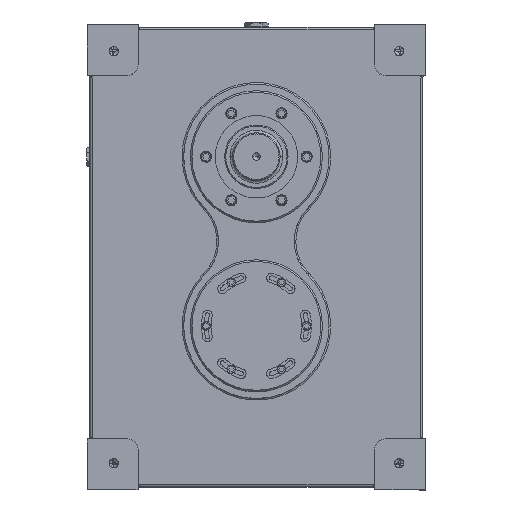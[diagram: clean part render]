
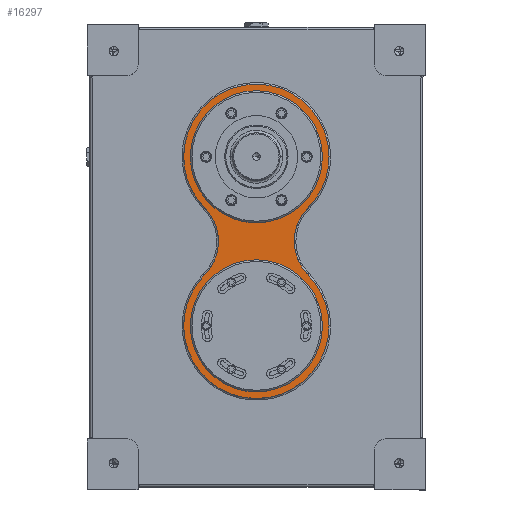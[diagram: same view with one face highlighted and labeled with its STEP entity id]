
A CAD part, top view. The second image highlights one B-rep face of the part: STEP entity #16297.
In plain terms, the highlighted planar face has unit normal (0, 0, 1).
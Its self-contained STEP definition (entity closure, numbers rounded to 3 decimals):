
#68 = CIRCLE ( 'NONE', #56708, 90. ) ;
#1026 = AXIS2_PLACEMENT_3D ( 'NONE', #30302, #65711, #35496 ) ;
#1713 = AXIS2_PLACEMENT_3D ( 'NONE', #26358, #61930, #31524 ) ;
#1948 = DIRECTION ( 'NONE',  ( -1., 0., 0. ) ) ;
#2065 = ORIENTED_EDGE ( 'NONE', *, *, #53320, .T. ) ;
#2189 = EDGE_LOOP ( 'NONE', ( #28397, #11745, #31473, #39437, #22353, #55147, #11807, #37078, #30610 ) ) ;
#2245 = CARTESIAN_POINT ( 'NONE',  ( 0., -320., 175. ) ) ;
#3054 = EDGE_LOOP ( 'NONE', ( #20909, #2065 ) ) ;
#4476 = CIRCLE ( 'NONE', #25063, 100. ) ;
#4623 = DIRECTION ( 'NONE',  ( -1., 0., 0. ) ) ;
#4947 = CIRCLE ( 'NONE', #16569, 100. ) ;
#6315 = AXIS2_PLACEMENT_3D ( 'NONE', #39485, #8766, #44641 ) ;
#6488 = EDGE_CURVE ( 'NONE', #48195, #57536, #33343, .T. ) ;
#7377 = VERTEX_POINT ( 'NONE', #39185 ) ;
#7378 = DIRECTION ( 'NONE',  ( -1., 0., 0. ) ) ;
#7938 = CARTESIAN_POINT ( 'NONE',  ( 97.748, -96.703, 175. ) ) ;
#8766 = DIRECTION ( 'NONE',  ( 0., 0., -1. ) ) ;
#8810 = EDGE_LOOP ( 'NONE', ( #40451, #64252 ) ) ;
#9271 = DIRECTION ( 'NONE',  ( -1., 0., 0. ) ) ;
#9321 = DIRECTION ( 'NONE',  ( 0., 0., -1. ) ) ;
#9390 = CARTESIAN_POINT ( 'NONE',  ( 0., -320., 175. ) ) ;
#9407 = CARTESIAN_POINT ( 'NONE',  ( 161.729, -160., 175. ) ) ;
#10196 = CARTESIAN_POINT ( 'NONE',  ( -97.748, -223.297, 175. ) ) ;
#10697 = DIRECTION ( 'NONE',  ( 0., 0., -1. ) ) ;
#11216 = EDGE_CURVE ( 'NONE', #29065, #13637, #63526, .T. ) ;
#11745 = ORIENTED_EDGE ( 'NONE', *, *, #61209, .T. ) ;
#11767 = DIRECTION ( 'NONE',  ( 0., 0., -1. ) ) ;
#11807 = ORIENTED_EDGE ( 'NONE', *, *, #11216, .T. ) ;
#12510 = FACE_BOUND ( 'NONE', #8810, .T. ) ;
#12964 = CARTESIAN_POINT ( 'NONE',  ( 0., -320., 175. ) ) ;
#13637 = VERTEX_POINT ( 'NONE', #7938 ) ;
#13677 = VERTEX_POINT ( 'NONE', #42764 ) ;
#14475 = DIRECTION ( 'NONE',  ( -1., 0., 0. ) ) ;
#15415 = DIRECTION ( 'NONE',  ( 0., 0., -1. ) ) ;
#15999 = DIRECTION ( 'NONE',  ( 0., 0., -1. ) ) ;
#16297 = ADVANCED_FACE ( 'NONE', ( #39753, #12510, #56459 ), #31825, .T. ) ;
#16569 = AXIS2_PLACEMENT_3D ( 'NONE', #12964, #48919, #18084 ) ;
#16756 = EDGE_CURVE ( 'NONE', #18673, #13677, #61663, .T. ) ;
#17888 = CARTESIAN_POINT ( 'NONE',  ( -100., 0., 175. ) ) ;
#18084 = DIRECTION ( 'NONE',  ( -1., 0., 0. ) ) ;
#18673 = VERTEX_POINT ( 'NONE', #54972 ) ;
#19296 = CARTESIAN_POINT ( 'NONE',  ( 71.729, -160., 175. ) ) ;
#20909 = ORIENTED_EDGE ( 'NONE', *, *, #48851, .T. ) ;
#21484 = EDGE_CURVE ( 'NONE', #13677, #56391, #46641, .T. ) ;
#21766 = CARTESIAN_POINT ( 'NONE',  ( 80.864, -240., 175. ) ) ;
#22241 = VERTEX_POINT ( 'NONE', #27247 ) ;
#22353 = ORIENTED_EDGE ( 'NONE', *, *, #6488, .F. ) ;
#23239 = CIRCLE ( 'NONE', #49591, 137.5 ) ;
#24633 = AXIS2_PLACEMENT_3D ( 'NONE', #41433, #10697, #46582 ) ;
#25063 = AXIS2_PLACEMENT_3D ( 'NONE', #42521, #11767, #47690 ) ;
#26358 = CARTESIAN_POINT ( 'NONE',  ( 0., 0., 175. ) ) ;
#26880 = DIRECTION ( 'NONE',  ( 1., 0., 0. ) ) ;
#26921 = VERTEX_POINT ( 'NONE', #10196 ) ;
#27247 = CARTESIAN_POINT ( 'NONE',  ( 100., -320., 175. ) ) ;
#28397 = ORIENTED_EDGE ( 'NONE', *, *, #16756, .F. ) ;
#29065 = VERTEX_POINT ( 'NONE', #19296 ) ;
#30059 = CARTESIAN_POINT ( 'NONE',  ( 97.748, -223.297, 175. ) ) ;
#30302 = CARTESIAN_POINT ( 'NONE',  ( 0., -320., 175. ) ) ;
#30610 = ORIENTED_EDGE ( 'NONE', *, *, #21484, .F. ) ;
#30628 = AXIS2_PLACEMENT_3D ( 'NONE', #9407, #9321, #9271 ) ;
#31329 = CIRCLE ( 'NONE', #24633, 137.5 ) ;
#31473 = ORIENTED_EDGE ( 'NONE', *, *, #61426, .F. ) ;
#31524 = DIRECTION ( 'NONE',  ( -1., 0., 0. ) ) ;
#31825 = PLANE ( 'NONE',  #33486 ) ;
#32684 = DIRECTION ( 'NONE',  ( 0., 0., -1. ) ) ;
#33343 = CIRCLE ( 'NONE', #1026, 137.5 ) ;
#33486 = AXIS2_PLACEMENT_3D ( 'NONE', #21766, #57433, #26880 ) ;
#35413 = DIRECTION ( 'NONE',  ( 0., 0., -1. ) ) ;
#35496 = DIRECTION ( 'NONE',  ( -1., 0., 0. ) ) ;
#36465 = VERTEX_POINT ( 'NONE', #48833 ) ;
#37078 = ORIENTED_EDGE ( 'NONE', *, *, #61804, .F. ) ;
#37212 = CARTESIAN_POINT ( 'NONE',  ( 137.5, 0., 175. ) ) ;
#38154 = DIRECTION ( 'NONE',  ( 0., 0., -1. ) ) ;
#38768 = VERTEX_POINT ( 'NONE', #42250 ) ;
#39185 = CARTESIAN_POINT ( 'NONE',  ( -100., -320., 175. ) ) ;
#39437 = ORIENTED_EDGE ( 'NONE', *, *, #62193, .F. ) ;
#39485 = CARTESIAN_POINT ( 'NONE',  ( 0., 0., 175. ) ) ;
#39559 = CIRCLE ( 'NONE', #41655, 100. ) ;
#39753 = FACE_BOUND ( 'NONE', #3054, .T. ) ;
#40451 = ORIENTED_EDGE ( 'NONE', *, *, #50637, .T. ) ;
#41433 = CARTESIAN_POINT ( 'NONE',  ( 0., 0., 175. ) ) ;
#41655 = AXIS2_PLACEMENT_3D ( 'NONE', #46787, #15999, #51925 ) ;
#42250 = CARTESIAN_POINT ( 'NONE',  ( -137.5, -320., 175. ) ) ;
#42521 = CARTESIAN_POINT ( 'NONE',  ( 0., -320., 175. ) ) ;
#42764 = CARTESIAN_POINT ( 'NONE',  ( -137.5, 0., 175. ) ) ;
#44641 = DIRECTION ( 'NONE',  ( -1., 0., 0. ) ) ;
#45263 = DIRECTION ( 'NONE',  ( 0., 0., -1. ) ) ;
#46195 = CARTESIAN_POINT ( 'NONE',  ( -161.729, -160., 175. ) ) ;
#46582 = DIRECTION ( 'NONE',  ( -1., 0., 0. ) ) ;
#46641 = CIRCLE ( 'NONE', #6315, 137.5 ) ;
#46787 = CARTESIAN_POINT ( 'NONE',  ( 0., 0., 175. ) ) ;
#47690 = DIRECTION ( 'NONE',  ( -1., 0., 0. ) ) ;
#48195 = VERTEX_POINT ( 'NONE', #30059 ) ;
#48833 = CARTESIAN_POINT ( 'NONE',  ( 100., 0., 175. ) ) ;
#48851 = EDGE_CURVE ( 'NONE', #62085, #36465, #39559, .T. ) ;
#48919 = DIRECTION ( 'NONE',  ( 0., 0., -1. ) ) ;
#49126 = AXIS2_PLACEMENT_3D ( 'NONE', #46195, #15415, #51363 ) ;
#49591 = AXIS2_PLACEMENT_3D ( 'NONE', #9390, #45263, #14475 ) ;
#50637 = EDGE_CURVE ( 'NONE', #7377, #22241, #4476, .T. ) ;
#51363 = DIRECTION ( 'NONE',  ( -1., 0., 0. ) ) ;
#51925 = DIRECTION ( 'NONE',  ( -1., 0., 0. ) ) ;
#53021 = EDGE_CURVE ( 'NONE', #22241, #7377, #4947, .T. ) ;
#53317 = CARTESIAN_POINT ( 'NONE',  ( 137.5, -320., 175. ) ) ;
#53320 = EDGE_CURVE ( 'NONE', #36465, #62085, #59254, .T. ) ;
#54972 = CARTESIAN_POINT ( 'NONE',  ( -97.748, -96.703, 175. ) ) ;
#55147 = ORIENTED_EDGE ( 'NONE', *, *, #61703, .T. ) ;
#55305 = CIRCLE ( 'NONE', #61261, 137.5 ) ;
#56391 = VERTEX_POINT ( 'NONE', #37212 ) ;
#56459 = FACE_OUTER_BOUND ( 'NONE', #2189, .T. ) ;
#56708 = AXIS2_PLACEMENT_3D ( 'NONE', #65646, #35413, #4623 ) ;
#57433 = DIRECTION ( 'NONE',  ( 0., 0., 1. ) ) ;
#57536 = VERTEX_POINT ( 'NONE', #53317 ) ;
#59254 = CIRCLE ( 'NONE', #59788, 100. ) ;
#59788 = AXIS2_PLACEMENT_3D ( 'NONE', #63047, #32684, #1948 ) ;
#61209 = EDGE_CURVE ( 'NONE', #18673, #26921, #63931, .T. ) ;
#61261 = AXIS2_PLACEMENT_3D ( 'NONE', #2245, #38154, #7378 ) ;
#61426 = EDGE_CURVE ( 'NONE', #38768, #26921, #55305, .T. ) ;
#61663 = CIRCLE ( 'NONE', #1713, 137.5 ) ;
#61703 = EDGE_CURVE ( 'NONE', #48195, #29065, #68, .T. ) ;
#61804 = EDGE_CURVE ( 'NONE', #56391, #13637, #31329, .T. ) ;
#61930 = DIRECTION ( 'NONE',  ( 0., 0., -1. ) ) ;
#62085 = VERTEX_POINT ( 'NONE', #17888 ) ;
#62193 = EDGE_CURVE ( 'NONE', #57536, #38768, #23239, .T. ) ;
#63047 = CARTESIAN_POINT ( 'NONE',  ( 0., 0., 175. ) ) ;
#63526 = CIRCLE ( 'NONE', #30628, 90. ) ;
#63931 = CIRCLE ( 'NONE', #49126, 90. ) ;
#64252 = ORIENTED_EDGE ( 'NONE', *, *, #53021, .T. ) ;
#65646 = CARTESIAN_POINT ( 'NONE',  ( 161.729, -160., 175. ) ) ;
#65711 = DIRECTION ( 'NONE',  ( 0., 0., -1. ) ) ;
